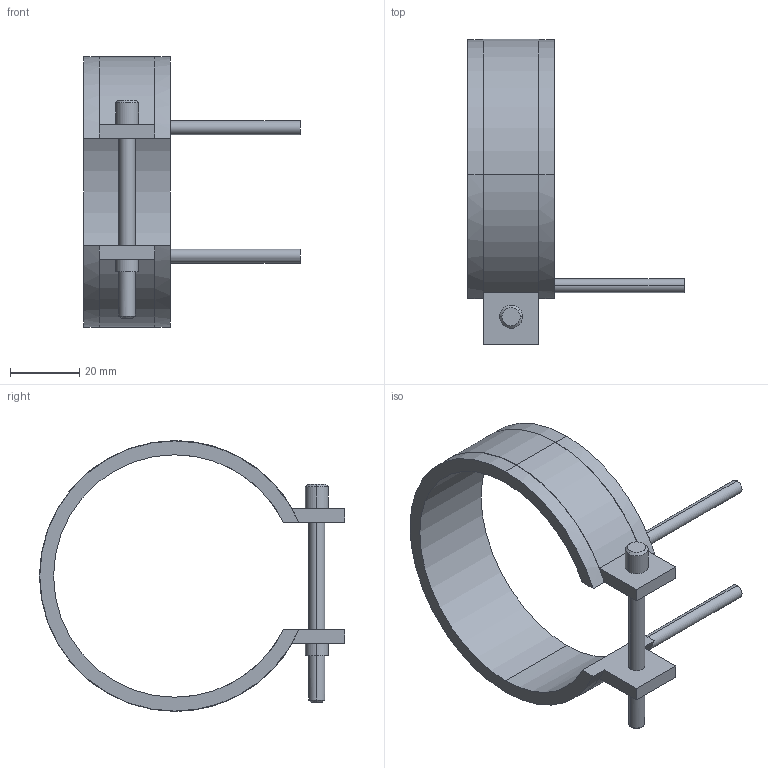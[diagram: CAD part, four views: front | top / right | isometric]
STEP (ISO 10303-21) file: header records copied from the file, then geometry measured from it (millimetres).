
FILE_DESCRIPTION(('CATIA V5 STEP Exchange'),'2;1');
FILE_NAME('C:\Users\Utente\Desktop\IO LAVORO\3D X SITO CF\X SITO\PLASTICA\RF2\14070025.stp','2021-04-03T08:00:38+00:00',('none'),('none'),'CATIA Version 5 Release 20 GA (IN-10)','CATIA V5 STEP AP203','none');
FILE_SCHEMA(('CONFIG_CONTROL_DESIGN'));
Length unit declared in the file: millimetre
Products named in the file (1): 14070025
Bounding box: 62.5 x 88.1 x 78.2 mm (x, y, z)
Volume: 24252 mm3; surface area: 14781.8 mm2
Topology: 1 solids, 1 shells, 45 faces, 116 edges, 76 vertices
Faces by surface type: cylinder 24, plane 17, cone 4
Entity records: 1412 total; most frequent: CARTESIAN_POINT 288, ORIENTED_EDGE 232, DIRECTION 195, EDGE_CURVE 116, AXIS2_PLACEMENT_3D 103, VERTEX_POINT 76, CIRCLE 61, VECTOR 52
